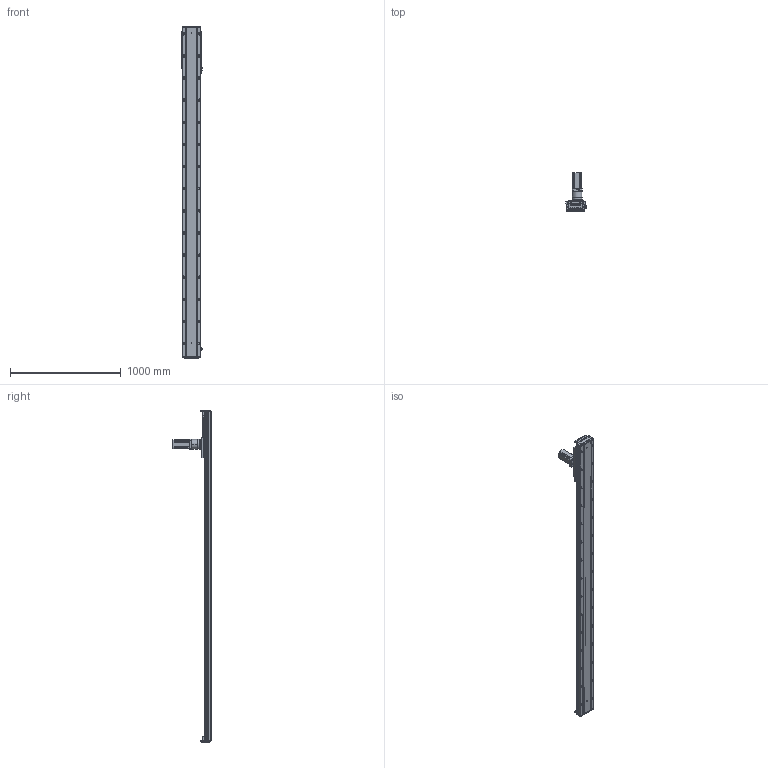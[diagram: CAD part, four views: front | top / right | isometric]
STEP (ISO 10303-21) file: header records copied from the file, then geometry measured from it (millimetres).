
FILE_DESCRIPTION (( 'STEP AP203' ), '1' );
FILE_NAME ('RY170-C-1000-UK.SLDASM_2500.step', '2021-03-03T00:47:40', ( '盈信电脑' ), ( '东莞市道滘镇水果街19号' ), 'SwSTEP 2.0', 'SolidWorks 2012', '' );
FILE_SCHEMA (( 'CONFIG_CONTROL_DESIGN' ));
Length unit declared in the file: millimetre
Products named in the file (13): RY170-C-1000-UK.SLDASM_2500; 左旋斜齿齿轮_M2_22齿_内孔20; RY170-喘沭賑輸; TF080等撰; RY170-喘謫萇儂覃誹啣; RY170-喘沭滅袉蝶輸; 怢湛750W萇儂ㄗ80遺ㄘ; RY170-1000-喘沭耀郪絳寢EGH20CA_2500; RY170綴裔啣ㄗ蜊秶ㄘ; 覜茼ん672; RY170外置感应片(200共用）; RY170-1000齿条模组型材底座_2500; 絳寢賑輸EGH20CA
Assembly tree (22 placements, depth 2):
  RY170-C-1000-UK.SLDASM_2500
    RY170-1000齿条模组型材底座_2500
    絳寢賑輸EGH20CA  x6
    RY170-1000-喘沭耀郪絳寢EGH20CA_2500  x2
    RY170綴裔啣ㄗ蜊秶ㄘ  x2
    覜茼ん672  x3
    RY170外置感应片(200共用）
    RY170-喘謫萇儂覃誹啣
    怢湛750W萇儂ㄗ80遺ㄘ
    RY170-喘沭滅袉蝶輸  x2
    TF080等撰
    左旋斜齿齿轮_M2_22齿_内孔20
    RY170-喘沭賑輸
Bounding box: 188.7 x 343.5 x 3000 mm (x, y, z)
Volume: 15522793.4 mm3; surface area: 3951507.3 mm2
Topology: 24 solids, 24 shells, 4617 faces, 13016 edges, 8316 vertices
Faces by surface type: plane 2195, cylinder 2000, cone 368, bspline 50, torus 4
Entity records: 105256 total; most frequent: CARTESIAN_POINT 25156, ORIENTED_EDGE 16774, DIRECTION 16200, EDGE_CURVE 8387, AXIS2_PLACEMENT_3D 6007, VERTEX_POINT 5454, VECTOR 4186, LINE 4186
